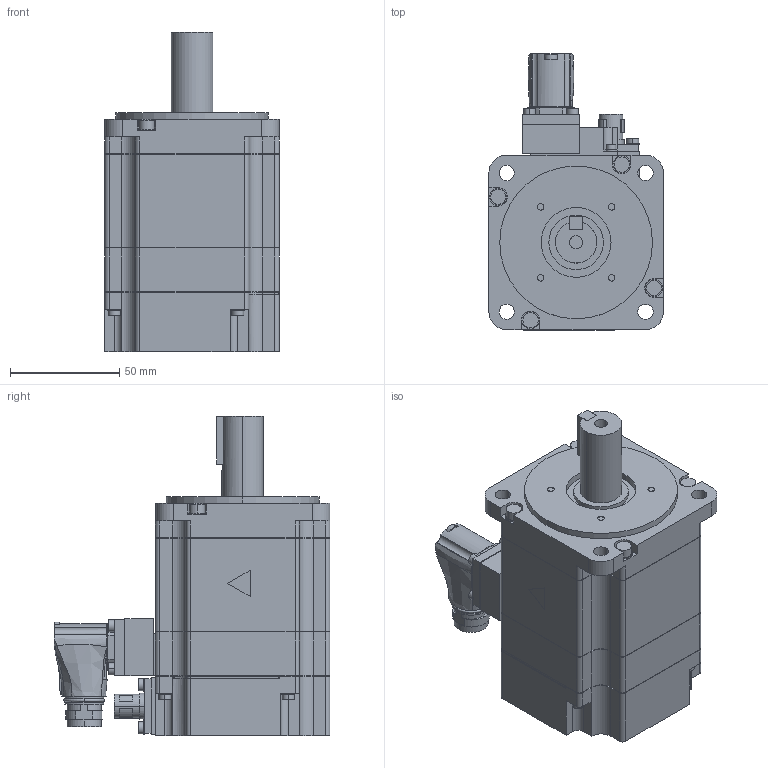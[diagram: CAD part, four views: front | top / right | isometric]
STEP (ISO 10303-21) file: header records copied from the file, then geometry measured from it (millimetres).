
FILE_DESCRIPTION (( 'STEP AP203' ), '1' );
FILE_NAME ('sgm7a_08d_f61.STEP', '2016-03-10T04:55:09', ( '匠エンジニアリング山之内' ), ( 'TAKUMI-Engniaring' ), 'SwSTEP 2.0', 'SolidWorks 2006303', '' );
FILE_SCHEMA (( 'CONFIG_CONTROL_DESIGN' ));
Length unit declared in the file: millimetre
Products named in the file (4): sgm7a_08d_f61_key; sgm7a_08d_f61_base; sgm7a_08d_f61_connector; sgm7a_08d_f61
Assembly tree (3 placements, depth 2):
  sgm7a_08d_f61
    sgm7a_08d_f61_connector
    sgm7a_08d_f61_key
    sgm7a_08d_f61_base
Bounding box: 80.1 x 126.5 x 146.6 mm (x, y, z)
Volume: 659060.2 mm3; surface area: 63178.6 mm2
Topology: 3 solids, 3 shells, 596 faces, 1539 edges, 1012 vertices
Faces by surface type: plane 322, cylinder 263, bspline 9, torus 2
Entity records: 19421 total; most frequent: CARTESIAN_POINT 3977, DIRECTION 3270, ORIENTED_EDGE 3078, EDGE_CURVE 1539, AXIS2_PLACEMENT_3D 1183, VERTEX_POINT 1012, VECTOR 904, LINE 904
